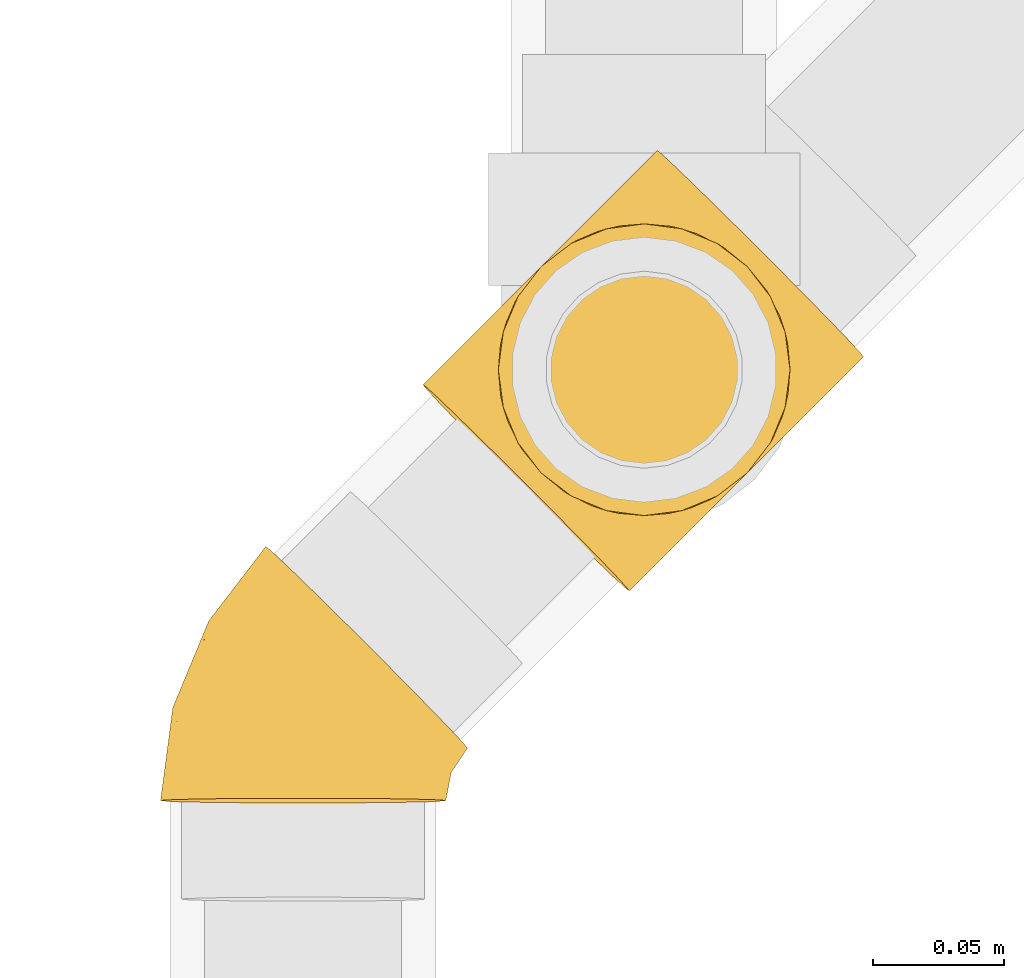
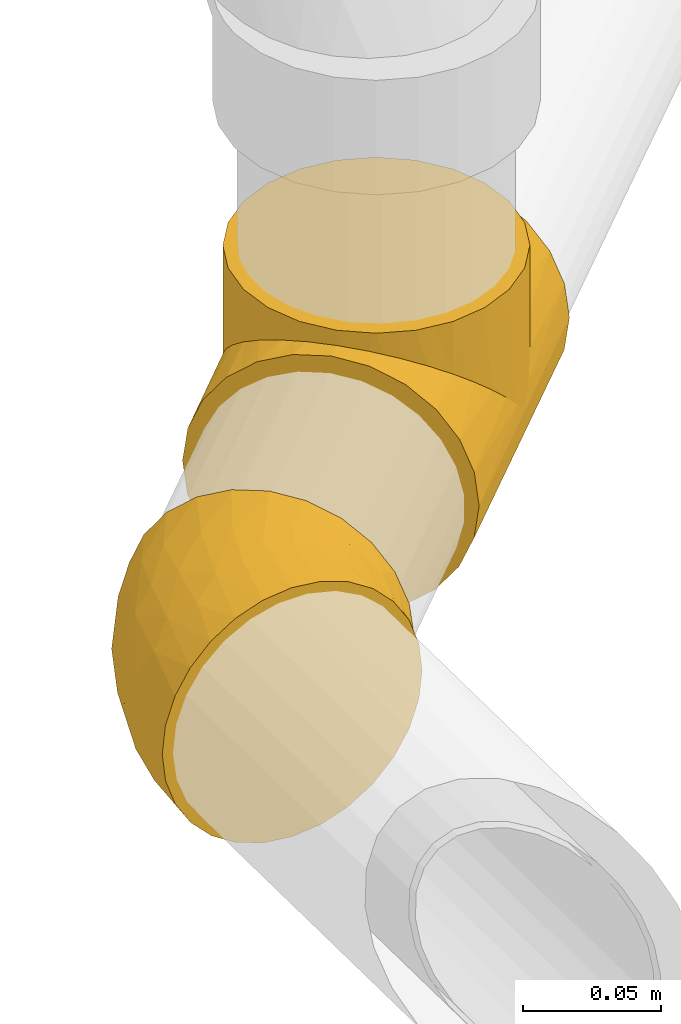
# One storey, part 14 of 156: 2 coverings.
"""IFC2X3 building model written with IfcOpenShell, lengths in millimetres."""

from ifc_helpers import new_model, entity, si_unit, converted_unit, derived_unit, direction, frame, origin_with_axes, place, context, subcontext, project, spatial, open_shell, surface_model, source, transform, mapped, element, save


model = new_model("IFC2X3")

# Units and contexts
model_context = context("Model", 3, precision=0.01, world=frame((0.0, 4.29681676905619e-09, 0.0)), true_north=direction((4.01073788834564e-13, 1.0)))
plan_context = context("Plan", 3, precision=0.01, world=frame((0.0, 4.29681676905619e-09, 0.0)), true_north=direction((4.01073788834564e-13, 1.0)))
body_context = subcontext(model_context, "Body", "Model", "MODEL_VIEW")
ifc_project = project(units=[converted_unit("PLANEANGLEUNIT", "DEGREE", entity("IfcPositiveLengthMeasure", 0.0174532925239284), si_unit("PLANEANGLEUNIT", "RADIAN"), dimensions=[0, 0, 0, 0, 0, 0, 0]), si_unit("AREAUNIT", "SQUARE_METRE"), si_unit("LENGTHUNIT", "METRE", prefix="MILLI"), si_unit("MASSUNIT", "GRAM", prefix="KILO"), si_unit("POWERUNIT", "WATT"), si_unit("PRESSUREUNIT", "PASCAL", prefix="KILO"), si_unit("FORCEUNIT", "NEWTON", prefix="KILO"), si_unit("ELECTRICVOLTAGEUNIT", "VOLT"), si_unit("ELECTRICCURRENTUNIT", "AMPERE"), si_unit("THERMODYNAMICTEMPERATUREUNIT", "DEGREE_CELSIUS"), si_unit("TIMEUNIT", "SECOND"), si_unit("VOLUMEUNIT", "CUBIC_METRE"), derived_unit("LINEARVELOCITYUNIT", [(si_unit("LENGTHUNIT", "METRE"), 1), (si_unit("TIMEUNIT", "SECOND"), -1)]), derived_unit("VOLUMETRICFLOWRATEUNIT", [(si_unit("VOLUMEUNIT", "CUBIC_METRE"), 1), (si_unit("TIMEUNIT", "SECOND"), -1)]), derived_unit("THERMALTRANSMITTANCEUNIT", [(si_unit("POWERUNIT", "WATT"), 1), (si_unit("THERMODYNAMICTEMPERATUREUNIT", "KELVIN"), -1), (si_unit("AREAUNIT", "SQUARE_METRE"), -1)]), derived_unit("SOUNDPRESSUREUNIT", [(si_unit("PRESSUREUNIT", "PASCAL"), 1)])], contexts=[model_context, plan_context])

# Site, building, storey
site_placement = place(None, frame((0.0, -4.29681676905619e-09, 0.0), z_axis=(0.0, 0.0, 1.0), x_axis=(1.0, 0.0, 0.0)))
site = spatial("IfcSite", under=ifc_project, at=site_placement, CompositionType="ELEMENT")
building_placement = place(site_placement, frame((0.0, 4.29681676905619e-09, 0.0), z_axis=(0.0, 0.0, 1.0), x_axis=(1.0, 0.0, 0.0)))
building = spatial("IfcBuilding", under=site, at=building_placement, Name="mc-building", CompositionType="ELEMENT")
storey_placement = place(building_placement, frame((0.0, 0.0, 205200.0), z_axis=(0.0, 0.0, 1.0), x_axis=(1.0, 0.0, 0.0)))
storey = spatial("IfcBuildingStorey", under=building, at=storey_placement, Name="Nivå D + 1,2 m", CompositionType="ELEMENT", Elevation=205200.0)

# Coverings
shared_shape_1 = source(origin_with_axes(), body_context, "Body", "SurfaceModel", [
    surface_model("IfcShellBasedSurfaceModel", [(63.54898, -48.06441, 27.75), (63.54898, -14.36446, 53.60888), (63.54898, -27.75, 48.06441), (63.54898, -39.24443, 39.24443), (63.54898, 0.0, 55.5), (63.54898, -53.60888, 14.36446), (63.54898, -53.60888, -14.36446), (63.54898, 14.36446, 53.60888), (63.54898, 27.75, 48.06441), (63.54898, 39.24443, 39.24443), (63.54898, -39.24443, -39.24443), (63.54898, 48.06441, 27.75), (63.54898, 55.5, 0.0), (63.54898, 53.60888, 14.36446), (63.54898, -55.5, 0.0), (63.54898, -48.06441, -27.75), (63.54898, -27.75, -48.06441), (63.54898, -14.36446, -53.60888), (63.54898, 0.0, -55.5), (63.54898, 48.06441, -27.75), (63.54898, 53.60888, -14.36446), (63.54898, 27.75, -48.06441), (63.54898, 39.24443, -39.24443), (63.54898, 14.36446, -53.60888), (-62.49477, 53.60888, 14.36446), (-62.49477, 55.5, 0.0), (-62.49477, 0.0, -55.5), (-62.49477, -14.36446, -53.60888), (-62.49477, -39.24443, -39.24443), (-62.49477, 39.24443, 39.24443), (-62.49477, -27.75, -48.06441), (-62.49477, 48.06441, 27.75), (-62.49477, -48.06441, -27.75), (-62.49477, 27.75, -48.06441), (-62.49477, 48.06441, -27.75), (-62.49477, 39.24443, -39.24443), (-62.49477, 14.36446, -53.60888), (-62.49477, 53.60888, -14.36446), (-62.49477, -53.60888, -14.36446), (-62.49477, -53.60888, 14.36446), (-62.49477, 0.0, 55.5), (-62.49477, -48.06441, 27.75), (-62.49477, -27.75, 48.06441), (-62.49477, -14.36446, 53.60888), (-62.49477, -39.24443, 39.24443), (-62.49477, 14.36446, 53.60888), (-62.49477, 27.75, 48.06441), (-62.49477, -55.5, 0.0), (63.54898, -54.08166, -10.77334), (55.48684, -54.56789, -8.75952), (55.17091, -54.25719, -11.67936), (39.90175, -39.24091, -39.24794), (63.54898, -43.65442, -33.49721), (46.36378, -45.59593, -31.64272), (48.99739, -48.18592, -27.02467), (51.631, -50.77591, -22.40662), (63.54898, -50.83665, -21.05723), (63.54898, -54.55444, -7.18223), (53.40096, -52.51655, -17.04299), (55.80278, -54.8786, -5.83968), (63.54898, -55.02722, -3.59111), (56.11871, -55.1893, -2.91984), (63.54898, -52.22277, -17.71084), (24.86055, -24.44882, -49.82474), (16.73899, -16.46176, -53.00246), (8.41599, -8.27661, -54.87939), (0.0, 0.0, -55.5), (54.28593, -53.38687, -14.36117), (32.64342, -32.10279, -45.27318), (56.43465, -55.5, 0.0), (-62.49477, -55.02722, -3.59111), (-62.49477, -54.55444, -7.18223), (-53.98157, -54.89064, -5.78341), (-53.38231, -54.28129, -11.56681), (-62.49477, -54.08166, -10.77334), (-50.01075, -50.85296, -22.23122), (-62.49477, -50.83665, -21.05723), (-51.69653, -52.56712, -16.89902), (-44.96412, -45.72134, -31.46123), (-62.49477, -43.65442, -33.49721), (-38.74027, -39.39267, -39.09562), (-47.48744, -48.28715, -26.84622), (-54.2812, -55.19532, -2.8917), (-31.72195, -32.25616, -45.16404), (-24.17468, -24.5818, -49.75927), (-8.1896, -8.32752, -54.87169), (-16.28447, -16.55871, -52.97225), (-62.49477, -52.22277, -17.71084), (-54.58083, -55.5, 0.0), (0.0, 0.0, 55.5), (8.41599, -8.27661, 54.87939), (55.48684, -54.56789, 8.75952), (63.54898, -54.08166, 10.77334), (55.17091, -54.25719, 11.67936), (16.73899, -16.46176, 53.00246), (24.86055, -24.44882, 49.82474), (63.54898, -50.83665, 21.05723), (53.40096, -52.51655, 17.04299), (63.54898, -52.22277, 17.71084), (54.28593, -53.38687, 14.36117), (32.64342, -32.10279, 45.27318), (56.11871, -55.1893, 2.91984), (63.54898, -54.55444, 7.18223), (55.80278, -54.8786, 5.83968), (46.36378, -45.59593, 31.64272), (63.54898, -43.65442, 33.49721), (39.90175, -39.24091, 39.24794), (51.631, -50.77591, 22.40662), (63.54898, -55.02722, 3.59111), (48.99739, -48.18592, 27.02467), (-8.1896, -8.32752, 54.87169), (-24.17468, -24.5818, 49.75927), (-31.72195, -32.25616, 45.16404), (-51.69653, -52.56712, 16.89902), (-62.49477, -50.83665, 21.05723), (-62.49477, -52.22277, 17.71084), (-53.38231, -54.28129, 11.56681), (-62.49477, -54.08166, 10.77334), (-16.28447, -16.55871, 52.97225), (-54.2812, -55.19532, 2.8917), (-50.01075, -50.85296, 22.23122), (-47.48744, -48.28715, 26.84622), (-53.98157, -54.89064, 5.78341), (-62.49477, -54.55444, 7.18223), (-62.49477, -55.02722, 3.59111), (-44.96412, -45.72134, 31.46123), (-62.49477, -43.65442, 33.49721), (-38.74027, -39.39267, 39.09562), (-13.30824, -63.36258, 53.60888), (15.41667, -62.88285, 53.60888), (1.05421, -63.12271, 55.5), (-38.18474, -63.77805, 39.24443), (-26.69192, -63.5861, 48.06441), (-47.00349, -63.92533, 27.75), (-52.5472, -64.01791, 14.36446), (49.11192, -62.3201, -27.75), (40.29317, -62.46739, 39.24443), (28.80035, -62.65932, 48.06441), (56.54648, -62.19594, 0.0), (49.11192, -62.3201, 27.75), (54.65562, -62.22752, 14.36446), (-52.5472, -64.01791, -14.36446), (-47.00349, -63.92533, -27.75), (-26.69192, -63.5861, -48.06441), (-13.30824, -63.36258, -53.60888), (-38.18474, -63.77805, -39.24443), (1.05421, -63.12271, -55.5), (40.29317, -62.46739, -39.24443), (54.65562, -62.22752, -14.36446), (28.80035, -62.65932, -48.06441), (15.41667, -62.88285, -53.60888), (-54.43805, -64.04949, 0.0), (-53.96533, -64.0416, 3.59111), (-53.49262, -64.0337, 7.18223), (-53.01991, -64.02581, 10.77334), (-49.77535, -63.97162, 21.05723), (-51.16127, -63.99477, 17.71084), (-42.59412, -63.85168, 33.49721), (51.88377, -62.27381, 21.05723), (53.2697, -62.25067, 17.71084), (55.12833, -62.21962, 10.77334), (44.70254, -62.39374, 33.49721), (56.07376, -62.20383, 3.59111), (55.60105, -62.21173, 7.18223), (55.12833, -62.21962, -10.77334), (51.88377, -62.27381, -21.05723), (44.70254, -62.39374, -33.49721), (56.07376, -62.20383, -3.59111), (55.60105, -62.21173, -7.18223), (53.2697, -62.25067, -17.71084), (-49.77535, -63.97162, -21.05723), (-51.16127, -63.99477, -17.71084), (-53.01991, -64.02581, -10.77334), (-53.49262, -64.0337, -7.18223), (-53.96533, -64.0416, -3.59111), (-42.59412, -63.85168, -33.49721)], [open_shell([[[0, 1, 2]], [[0, 2, 3]], [[4, 0, 5]], [[0, 4, 1]], [[5, 6, 7]], [[5, 7, 4]], [[7, 6, 8]], [[9, 10, 11]], [[9, 8, 6]], [[12, 13, 11]], [[5, 14, 6]], [[15, 10, 9]], [[11, 10, 16]], [[11, 17, 12]], [[16, 17, 11]], [[18, 12, 17]], [[12, 19, 20]], [[12, 18, 19]], [[19, 21, 22]], [[21, 19, 23]], [[18, 23, 19]], [[15, 9, 6]], [[24, 25, 26]], [[26, 27, 24]], [[28, 29, 30]], [[30, 31, 27]], [[28, 32, 29]], [[33, 34, 35]], [[34, 33, 36]], [[34, 25, 37]], [[34, 36, 26]], [[26, 25, 34]], [[32, 38, 29]], [[39, 40, 38]], [[41, 40, 39]], [[42, 43, 41]], [[42, 41, 44]], [[43, 40, 41]], [[31, 24, 27]], [[29, 31, 30]], [[45, 46, 38]], [[29, 38, 46]], [[38, 40, 45]], [[39, 38, 47]], [[48, 49, 50]], [[51, 52, 53]], [[54, 53, 15]], [[55, 15, 56]], [[48, 57, 49]], [[55, 56, 58]], [[57, 59, 49]], [[60, 61, 59]], [[14, 61, 60]], [[58, 62, 6]], [[53, 52, 15]], [[59, 57, 60]], [[51, 10, 52]], [[58, 56, 62]], [[63, 64, 17]], [[50, 6, 48]], [[65, 66, 18]], [[6, 50, 67]], [[15, 55, 54]], [[64, 65, 17]], [[68, 16, 10]], [[6, 67, 58]], [[63, 16, 68]], [[63, 17, 16]], [[65, 18, 17]], [[68, 10, 51]], [[61, 14, 69]], [[70, 71, 72]], [[73, 74, 38]], [[75, 76, 32]], [[77, 76, 75]], [[77, 73, 38]], [[78, 32, 79]], [[80, 78, 79]], [[75, 32, 81]], [[82, 47, 70]], [[79, 28, 80]], [[32, 78, 81]], [[83, 28, 30]], [[84, 30, 27]], [[85, 27, 26]], [[73, 71, 74]], [[84, 83, 30]], [[71, 73, 72]], [[85, 86, 27]], [[66, 85, 26]], [[77, 38, 87]], [[84, 27, 86]], [[76, 77, 87]], [[70, 72, 82]], [[28, 83, 80]], [[47, 82, 88]], [[66, 26, 36]], [[23, 36, 33]], [[18, 66, 23]], [[23, 66, 36]], [[33, 21, 23]], [[33, 35, 21]], [[22, 35, 34]], [[19, 34, 37]], [[20, 37, 25]], [[22, 34, 19]], [[19, 37, 20]], [[25, 12, 20]], [[35, 22, 21]], [[13, 24, 31]], [[11, 31, 29]], [[25, 24, 12]], [[12, 24, 13]], [[31, 11, 13]], [[29, 9, 11]], [[8, 46, 45]], [[40, 89, 45]], [[7, 45, 89]], [[9, 46, 8]], [[8, 45, 7]], [[89, 4, 7]], [[46, 9, 29]], [[89, 90, 4]], [[91, 92, 93]], [[94, 95, 1]], [[96, 97, 98]], [[5, 97, 99]], [[90, 94, 1]], [[97, 5, 98]], [[4, 90, 1]], [[2, 100, 3]], [[2, 1, 95]], [[100, 2, 95]], [[14, 101, 69]], [[102, 91, 103]], [[92, 91, 102]], [[104, 105, 106]], [[97, 96, 107]], [[99, 93, 5]], [[101, 14, 108]], [[104, 0, 105]], [[109, 107, 0]], [[106, 105, 3]], [[93, 92, 5]], [[96, 0, 107]], [[103, 108, 102]], [[0, 104, 109]], [[106, 3, 100]], [[108, 103, 101]], [[110, 40, 43]], [[43, 42, 111]], [[112, 42, 44]], [[112, 111, 42]], [[113, 114, 115]], [[110, 89, 40]], [[116, 39, 117]], [[111, 118, 43]], [[110, 43, 118]], [[119, 47, 88]], [[41, 120, 121]], [[122, 123, 124]], [[125, 126, 41]], [[115, 39, 113]], [[119, 122, 124]], [[116, 117, 123]], [[127, 44, 126]], [[127, 126, 125]], [[120, 114, 113]], [[116, 123, 122]], [[120, 41, 114]], [[125, 41, 121]], [[39, 116, 113]], [[44, 127, 112]], [[47, 119, 124]], [[128, 129, 130]], [[131, 128, 132]], [[131, 133, 134]], [[129, 128, 131]], [[131, 135, 129]], [[129, 136, 137]], [[136, 129, 138]], [[139, 138, 140]], [[138, 139, 136]], [[138, 129, 135]], [[131, 134, 135]], [[141, 142, 134]], [[134, 142, 135]], [[143, 144, 142]], [[143, 142, 145]], [[146, 142, 144]], [[135, 146, 147]], [[148, 138, 135]], [[149, 146, 150]], [[146, 149, 147]], [[142, 146, 135]], [[151, 141, 134]], [[152, 153, 122]], [[116, 154, 134]], [[155, 113, 156]], [[151, 119, 88]], [[120, 155, 133]], [[113, 155, 120]], [[113, 116, 134]], [[125, 133, 157]], [[127, 125, 157]], [[120, 133, 121]], [[119, 151, 152]], [[157, 131, 127]], [[133, 125, 121]], [[112, 131, 132]], [[113, 134, 156]], [[111, 132, 128]], [[110, 128, 130]], [[153, 116, 122]], [[111, 112, 132]], [[110, 118, 128]], [[89, 110, 130]], [[152, 122, 119]], [[111, 128, 118]], [[116, 153, 154]], [[131, 112, 127]], [[90, 130, 129]], [[97, 158, 159]], [[129, 137, 95]], [[100, 137, 136]], [[100, 95, 137]], [[140, 93, 99]], [[90, 89, 130]], [[93, 140, 160]], [[95, 94, 129]], [[90, 129, 94]], [[101, 138, 69]], [[139, 107, 109]], [[104, 161, 139]], [[159, 140, 97]], [[138, 101, 162]], [[101, 103, 162]], [[160, 163, 91]], [[106, 136, 161]], [[106, 161, 104]], [[107, 158, 97]], [[160, 91, 93]], [[107, 139, 158]], [[104, 139, 109]], [[140, 99, 97]], [[103, 163, 162]], [[136, 106, 100]], [[163, 103, 91]], [[50, 164, 148]], [[55, 165, 135]], [[166, 147, 51]], [[61, 138, 167]], [[167, 168, 59]], [[58, 165, 55]], [[54, 55, 135]], [[50, 148, 67]], [[53, 135, 166]], [[51, 53, 166]], [[51, 147, 68]], [[68, 147, 149]], [[63, 149, 150]], [[138, 61, 69]], [[167, 59, 61]], [[65, 150, 146]], [[49, 164, 50]], [[63, 68, 149]], [[168, 49, 59]], [[65, 64, 150]], [[66, 65, 146]], [[148, 58, 67]], [[63, 150, 64]], [[165, 58, 169]], [[58, 148, 169]], [[135, 53, 54]], [[164, 49, 168]], [[85, 146, 144]], [[144, 143, 84]], [[83, 143, 145]], [[83, 84, 143]], [[77, 170, 171]], [[85, 66, 146]], [[73, 141, 172]], [[84, 86, 144]], [[85, 144, 86]], [[82, 151, 88]], [[142, 75, 81]], [[72, 173, 174]], [[78, 175, 142]], [[171, 141, 77]], [[82, 72, 174]], [[73, 172, 173]], [[80, 145, 175]], [[80, 175, 78]], [[75, 170, 77]], [[73, 173, 72]], [[75, 142, 170]], [[78, 142, 81]], [[141, 73, 77]], [[145, 80, 83]], [[151, 82, 174]]])]),
])
covering_1_placement = place(storey_placement, frame((322778.39807, 462759.88016, 4032.30694000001), z_axis=(0.707054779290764, -0.7071587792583, -1.73472347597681e-18), x_axis=(-0.707060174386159, -0.70695618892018, 0.0166990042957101)))
element("IfcCovering", 1, at=covering_1_placement, inside=storey, Name="BI17T - Cellegummi 13 mm SPV fett", PredefinedType="INSULATION", context=body_context, shape_type="MappedRepresentation", body=[
    mapped(shared_shape_1, transform((0.0, 0.0, 0.0), scale=1.0)),
])
shared_shape_2 = source(origin_with_axes(), body_context, "Body", "SurfaceModel", [
    surface_model("IfcShellBasedSurfaceModel", [(-14.19359, 62.52194, 0.0), (-13.23113, 61.55926, 12.07667), (-10.39248, 58.71995, 23.54601), (-5.82058, 54.147, 33.83302), (7.52893, 40.79442, 48.88334), (15.63679, 32.68469, 52.89284), (0.25485, 48.07017, 42.42222), (0.24173, 48.08329, -42.40742), (58.71756, -10.40599, -23.54601), (-13.23404, 61.56217, -12.05862), (-5.83105, 54.15747, -33.81446), (-10.39923, 58.7267, -23.52619), (7.51491, 40.80844, -48.8738), (15.62403, 32.69746, -52.88872), (54.14566, -5.83304, -33.83302), (24.16254, 24.15698, -54.25), (24.16254, 24.15698, 54.25), (32.70105, 15.6165, 52.88872), (40.81016, 7.50552, 48.8738), (48.08335, 0.23067, 42.40742), (54.15613, -5.84351, 33.81446), (61.55912, -13.24821, 12.05862), (58.7243, -10.41274, 23.52619), (40.79615, 7.51954, -48.88334), (48.07022, 0.24379, -42.42222), (32.68829, 15.62927, -52.89284), (61.55621, -13.24529, -12.07667), (62.51867, -14.20798, 0.0), (-34.16706, 27.125, -46.98188), (-34.16706, 54.25, 0.0), (-34.16706, 52.40148, -14.04093), (-34.16706, 38.36054, -38.36054), (-34.16706, 46.98188, -27.125), (-34.16706, 0.0, 54.25), (-34.16706, -14.04093, 52.40148), (-34.16706, 52.40148, 14.04093), (-34.16706, 38.36054, 38.36054), (-34.16706, 46.98188, 27.125), (-34.16706, 14.04093, 52.40148), (-34.16706, 27.125, 46.98188), (-34.16706, 14.04093, -52.40148), (-34.16706, -52.40148, -14.04093), (-34.16706, 0.0, -54.25), (-34.16706, -14.04093, -52.40148), (-34.16706, -38.36054, -38.36054), (-34.16706, -27.125, -46.98188), (-34.16706, -46.98188, -27.125), (-34.16706, -52.40148, 14.04093), (-34.16706, -27.125, 46.98188), (-34.16706, -38.36054, 38.36054), (-34.16706, -46.98188, 27.125), (-34.16706, -54.25, 0.0), (30.17247, -20.95878, 37.36273), (1.22138, -49.59171, 0.0), (-12.81518, -50.86875, 13.40747), (-9.82783, -41.29688, 32.19118), (34.19886, -35.93422, 0.0), (7.78785, -45.63513, 14.30914), (-10.14139, -33.19217, 40.88262), (37.02733, -30.98085, 17.15942), (16.07457, -36.77051, 27.23097), (-2.60006, 6.27812, 54.25), (-10.55706, -7.47098, 53.22077), (10.87034, 2.27816, 53.41181), (-9.28789, -18.88853, 49.63477), (10.14464, -22.10609, 44.44748), (16.1395, -6.60028, 50.49937), (-10.45278, -47.31631, 22.27828), (9.43125, -32.52631, 36.08143), (39.20684, -23.47998, 28.107), (30.20423, -9.62459, 45.27574), (-8.90008, 46.29762, 38.36893), (-5.70651, 37.02329, 45.94169), (-1.32715, 18.83255, 53.15147), (-15.5927, 13.72466, 53.06846), (-24.13603, 21.49133, 50.15699), (-11.79053, 24.9583, 50.12046), (-19.4568, 59.00583, 0.0), (8.79212, 13.88871, 54.25), (-22.43158, 52.32198, 20.76057), (-26.49333, 54.08646, 11.26059), (-28.91969, 50.5855, 20.67218), (-20.71327, 56.41684, 10.862), (-25.79569, 44.87886, 31.79139), (-23.15653, 32.99586, 43.9625), (-14.77149, 51.49658, 28.87112), (-0.87442, 29.25415, 50.54574), (-17.2169, 55.40824, 19.71045), (-23.35775, 56.39978, 0.0), (-27.95901, 55.48467, 0.0), (-16.94829, 41.84848, 38.36893), (-16.03736, 3.60568, 54.25), (-3.49515, 38.50806, -45.92952), (-11.34383, 44.72896, -38.35215), (-28.76241, 55.32489, 0.0), (-25.93067, 52.63183, -17.00178), (-19.93803, 48.82441, -28.85176), (-21.27357, 40.29428, -38.3523), (-26.86967, 45.41894, -30.72918), (-13.25815, 52.5112, -28.85176), (-16.76449, 19.37785, -51.51004), (-2.60006, 6.27812, -54.25), (-18.38356, 3.13906, -54.25), (-0.7716, 27.22985, -51.20341), (-24.1786, 31.72024, -44.69534), (-17.98479, 55.71955, -17.90499), (8.79212, 13.88871, -54.25), (-13.2948, 33.09954, -45.92952), (-10.58599, -7.46484, -53.22339), (16.13054, -6.58384, -50.50671), (-9.28072, -18.86979, -49.64204), (30.16471, -20.94468, -37.37963), (39.20001, -23.47057, -28.12619), (16.06858, -36.76112, -27.24987), (37.02181, -30.97698, -17.17806), (-12.82872, -50.86702, -13.42255), (10.82069, 2.25447, -53.41246), (7.76146, -45.63986, -14.32269), (-10.13363, -33.18656, -40.88604), (-9.84127, -41.29916, -32.19165), (-10.46477, -47.31476, -22.28642), (10.13969, -22.08817, -44.46037), (30.19443, -9.6083, -45.28825), (9.4335, -32.52876, -36.07795)], [open_shell([[[0, 1, 2]], [[0, 2, 3]], [[4, 5, 6]], [[0, 6, 7]], [[0, 3, 6]], [[7, 6, 8]], [[9, 10, 11]], [[9, 0, 10]], [[12, 7, 13]], [[10, 0, 7]], [[14, 13, 7]], [[13, 14, 15]], [[6, 5, 16]], [[16, 17, 18]], [[8, 6, 18]], [[19, 20, 21]], [[22, 21, 20]], [[19, 21, 18]], [[8, 18, 21]], [[23, 14, 24]], [[14, 23, 25]], [[25, 15, 14]], [[7, 8, 14]], [[26, 8, 21]], [[21, 27, 26]], [[18, 6, 16]], [[28, 29, 30]], [[31, 30, 32]], [[29, 28, 33]], [[28, 30, 31]], [[34, 33, 28]], [[35, 36, 37]], [[36, 35, 38]], [[36, 38, 39]], [[35, 29, 38]], [[29, 33, 38]], [[28, 40, 34]], [[41, 42, 43]], [[44, 43, 45]], [[44, 46, 41]], [[44, 41, 43]], [[42, 41, 47]], [[48, 47, 49]], [[47, 48, 34]], [[49, 47, 50]], [[34, 42, 47]], [[41, 51, 47]], [[42, 34, 40]], [[19, 52, 20]], [[51, 53, 54]], [[50, 55, 49]], [[53, 56, 57]], [[58, 48, 49]], [[59, 60, 57]], [[61, 62, 63]], [[58, 64, 48]], [[62, 33, 34]], [[64, 65, 66]], [[54, 67, 47]], [[65, 58, 68]], [[55, 58, 49]], [[64, 62, 34]], [[59, 57, 56]], [[56, 21, 59]], [[22, 20, 69]], [[22, 69, 59]], [[66, 62, 64]], [[27, 21, 56]], [[70, 52, 19]], [[48, 64, 34]], [[60, 55, 67]], [[63, 16, 61]], [[18, 17, 66]], [[66, 65, 70]], [[59, 69, 60]], [[52, 69, 20]], [[18, 70, 19]], [[54, 57, 67]], [[66, 63, 62]], [[22, 59, 21]], [[33, 62, 61]], [[69, 52, 60]], [[67, 55, 50]], [[60, 52, 68]], [[68, 58, 55]], [[58, 65, 64]], [[60, 68, 55]], [[65, 68, 52]], [[66, 17, 63]], [[16, 63, 17]], [[47, 67, 50]], [[60, 67, 57]], [[66, 70, 18]], [[52, 70, 65]], [[51, 54, 47]], [[53, 57, 54]], [[71, 72, 6]], [[73, 74, 61]], [[38, 74, 75]], [[74, 73, 76]], [[1, 0, 77]], [[78, 5, 73]], [[79, 80, 81]], [[1, 77, 82]], [[83, 36, 84]], [[79, 81, 83]], [[83, 85, 79]], [[80, 79, 82]], [[72, 4, 6]], [[86, 5, 4]], [[3, 71, 6]], [[79, 87, 82]], [[84, 36, 39]], [[78, 73, 61]], [[73, 86, 76]], [[39, 75, 84]], [[80, 82, 88]], [[82, 87, 1]], [[80, 88, 89]], [[84, 72, 90]], [[77, 88, 82]], [[79, 85, 87]], [[85, 3, 2]], [[71, 85, 90]], [[76, 86, 72]], [[33, 91, 74]], [[78, 16, 5]], [[80, 29, 35]], [[74, 91, 61]], [[29, 80, 89]], [[81, 80, 35]], [[35, 37, 81]], [[83, 81, 37]], [[36, 83, 37]], [[83, 90, 85]], [[75, 74, 76]], [[33, 74, 38]], [[76, 72, 84]], [[39, 38, 75]], [[76, 84, 75]], [[84, 90, 83]], [[85, 71, 3]], [[72, 71, 90]], [[85, 2, 87]], [[1, 87, 2]], [[5, 86, 73]], [[4, 72, 86]], [[92, 93, 7]], [[30, 94, 95]], [[96, 97, 98]], [[93, 99, 10]], [[100, 101, 102]], [[12, 13, 103]], [[100, 28, 104]], [[77, 105, 88]], [[93, 97, 96]], [[95, 105, 96]], [[103, 13, 106]], [[102, 40, 100]], [[11, 105, 9]], [[77, 0, 9]], [[10, 7, 93]], [[10, 99, 11]], [[31, 97, 104]], [[32, 30, 95]], [[99, 105, 11]], [[96, 99, 93]], [[100, 107, 103]], [[92, 7, 12]], [[101, 103, 106]], [[95, 88, 105]], [[95, 96, 98]], [[92, 103, 107]], [[97, 93, 107]], [[40, 102, 42]], [[13, 15, 106]], [[105, 77, 9]], [[101, 100, 103]], [[28, 100, 40]], [[105, 99, 96]], [[103, 92, 12]], [[93, 92, 107]], [[104, 97, 107]], [[98, 31, 32]], [[100, 104, 107]], [[31, 104, 28]], [[31, 98, 97]], [[95, 98, 32]], [[94, 30, 29]], [[94, 88, 95]], [[108, 109, 110]], [[111, 112, 113]], [[101, 108, 42]], [[111, 24, 14]], [[114, 112, 8]], [[45, 43, 110]], [[41, 115, 51]], [[108, 101, 116]], [[114, 117, 113]], [[108, 110, 43]], [[118, 45, 110]], [[46, 119, 120]], [[42, 108, 43]], [[44, 119, 46]], [[23, 109, 25]], [[110, 121, 118]], [[109, 23, 122]], [[41, 120, 115]], [[122, 23, 24]], [[112, 111, 14]], [[123, 113, 119]], [[121, 122, 111]], [[117, 114, 56]], [[112, 14, 8]], [[26, 27, 56]], [[117, 56, 53]], [[26, 56, 114]], [[112, 114, 113]], [[110, 109, 121]], [[26, 114, 8]], [[116, 109, 108]], [[116, 15, 25]], [[120, 41, 46]], [[119, 118, 123]], [[118, 119, 44]], [[120, 113, 117]], [[45, 118, 44]], [[123, 121, 111]], [[121, 123, 118]], [[113, 123, 111]], [[15, 116, 101]], [[25, 109, 116]], [[113, 120, 119]], [[120, 117, 115]], [[111, 122, 24]], [[109, 122, 121]], [[117, 53, 115]], [[51, 115, 53]]])]),
])
covering_2_placement = place(storey_placement, frame((322648.61247, 462630.07305, 4033.70191999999), z_axis=(0.00690193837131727, 0.0166639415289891, 0.999837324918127), x_axis=(-0.707008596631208, -0.707008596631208, 0.0166639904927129)))
element("IfcCovering", 2, at=covering_2_placement, inside=storey, Name="BI17T - Cellegummi 13 mm SPV fett", PredefinedType="INSULATION", context=body_context, shape_type="MappedRepresentation", body=[
    mapped(shared_shape_2, transform((0.0, 0.0, 0.0), scale=1.0)),
])

save(model, "model.ifc")
